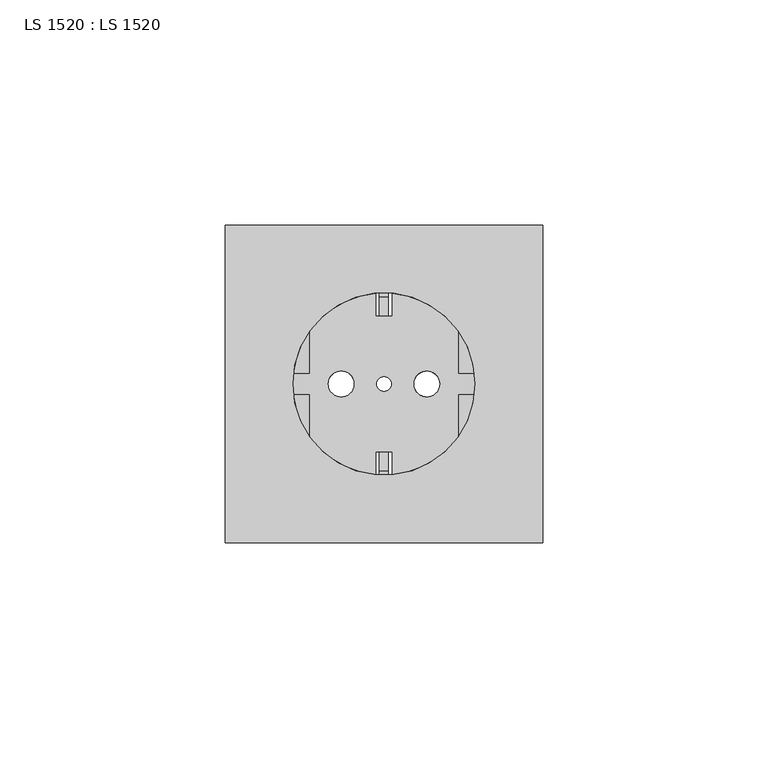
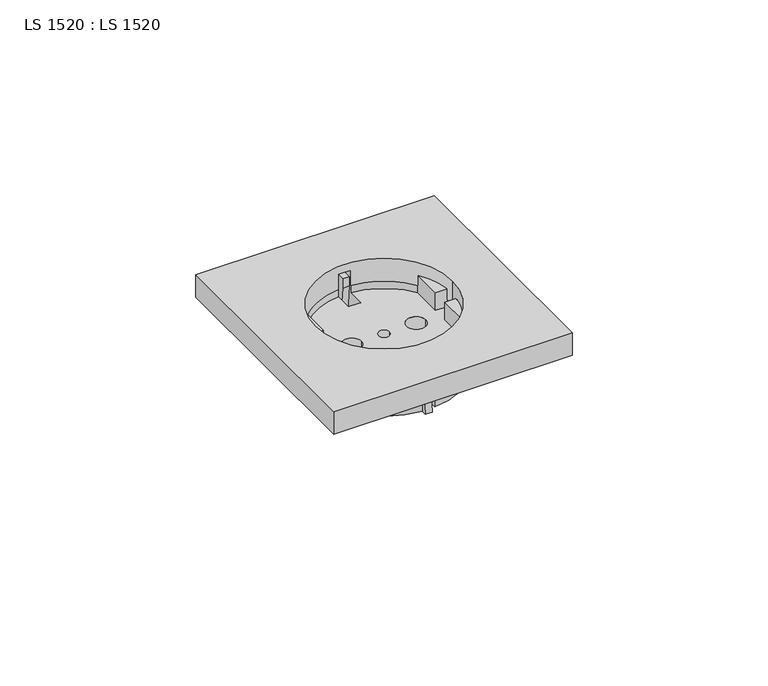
"""IFC4 building model written with IfcOpenShell, lengths in millimetres: proxy geometry, LS 1520 : LS 1520."""

import ifcopenshell
import ifcopenshell.guid

model = None  # the IFC model being written
_history = None  # IfcOwnerHistory: only IFC2X3 demands one
_inside = {}  # id of a spatial element -> (the spatial element, [elements in it])
_under = {}  # id of a project, library or spatial element -> (it, [spatial elements below it])
_declared = {}  # id of a project -> (the project, [libraries it declares])
_typed = {}  # id of a type object -> (the type object, [elements of that type])
_made_of = {}  # id of a material, layer set ... -> (it, [elements and type objects made of it])


def new_model(schema):
    """Start an empty IFC model of exactly this schema.

    Asked for "IFC4X3", IfcOpenShell would pick the latest addendum, in which some entities
    have other attributes; the version numbers below select the first issue.
    IFC2X3 requires an IfcOwnerHistory on every rooted entity: one is made here for all.
    """
    global model, _history
    if schema == "IFC4X3":
        model = ifcopenshell.file(schema_version=(4, 3, 0, 0))
    else:
        model = ifcopenshell.file(schema=schema)
    _inside.clear()
    _under.clear()
    _declared.clear()
    _typed.clear()
    _made_of.clear()
    _history = None
    if model.schema == "IFC2X3":
        org = make("IfcOrganization", Name="unknown")
        user = make(
            "IfcPersonAndOrganization",
            ThePerson=make("IfcPerson", FamilyName="unknown"),
            TheOrganization=org,
        )
        app = make(
            "IfcApplication",
            ApplicationDeveloper=org,
            Version="unknown",
            ApplicationFullName="unknown",
            ApplicationIdentifier="unknown",
        )
        _history = make(
            "IfcOwnerHistory",
            OwningUser=user,
            OwningApplication=app,
            ChangeAction="ADDED",
            CreationDate=0,
        )
    return model


def make(cls, **values):
    """One entity of the class cls with the attributes given. An attribute that is None is left unset."""
    return model.create_entity(
        cls, **{name: value for name, value in values.items() if value is not None}
    )


def rooted(cls, **values):
    """An entity with a GlobalId (a new one), such as an element, a storey or a relation."""
    return make(cls, GlobalId=ifcopenshell.guid.new(), OwnerHistory=_history, **values)


def si_unit(unit_type, name, prefix=None):
    """IfcSIUnit, for example si_unit("LENGTHUNIT", "METRE", prefix="MILLI")."""
    return make("IfcSIUnit", UnitType=unit_type, Prefix=prefix, Name=name)


def assignment(units):
    """IfcUnitAssignment: the units of a project."""
    return None if units is None else make("IfcUnitAssignment", Units=units)


def point(xyz):
    """IfcCartesianPoint."""
    return None if xyz is None else make("IfcCartesianPoint", Coordinates=xyz)


def direction(xyz):
    """IfcDirection."""
    return None if xyz is None else make("IfcDirection", DirectionRatios=xyz)


def frame(location, z_axis=None, x_axis=None):
    """IfcAxis2Placement3D, a coordinate frame: its origin and axes. An axis left out is left unset."""
    return make(
        "IfcAxis2Placement3D",
        Location=point(location),
        Axis=direction(z_axis),
        RefDirection=direction(x_axis),
    )


def frame_2d(location, x_axis=None):
    """IfcAxis2Placement2D, a coordinate frame in the plane: its origin and x axis."""
    return make(
        "IfcAxis2Placement2D", Location=point(location), RefDirection=direction(x_axis)
    )


def origin():
    """The frame at (0, 0, 0) with its axes left unset."""
    return frame((0.0, 0.0, 0.0))


def place(relative_to, where):
    """IfcLocalPlacement: puts the frame where relative to a parent placement (None: the world)."""
    return make(
        "IfcLocalPlacement", PlacementRelTo=relative_to, RelativePlacement=where
    )


def context(
    kind, dimensions, precision=None, world=None, true_north=None, identifier=None
):
    """IfcGeometricRepresentationContext, for example the 3D "Model" context."""
    return make(
        "IfcGeometricRepresentationContext",
        ContextIdentifier=identifier,
        ContextType=kind,
        CoordinateSpaceDimension=dimensions,
        Precision=precision,
        WorldCoordinateSystem=world,
        TrueNorth=true_north,
    )


def project(units=None, contexts=None):
    """IfcProject with its units and contexts."""
    return rooted(
        "IfcProject",
        Name="project",
        RepresentationContexts=contexts,
        UnitsInContext=assignment(units),
    )


def spatial(cls, under=None, at=None, **own):
    """A site, building, storey or space (cls), placed at a placement, below another one or the project."""
    s = rooted(cls, ObjectPlacement=at, **own)
    if under is not None:
        _under.setdefault(under.id(), (under, []))[1].append(s)
    return s


def polyline(points):
    """IfcPolyline through the points."""
    return make("IfcPolyline", Points=[point(p) for p in points])


def circle_curve(where, radius):
    """IfcCircle in the frame where."""
    return make("IfcCircle", Position=where, Radius=radius)


def trimmed(basis, trim1, trim2, sense, master):
    """IfcTrimmedCurve: the piece of a basis curve between two trims."""
    return make(
        "IfcTrimmedCurve",
        BasisCurve=basis,
        Trim1=trim1,
        Trim2=trim2,
        SenseAgreement=sense,
        MasterRepresentation=master,
    )


def segment(curve, same_sense, transition):
    """IfcCompositeCurveSegment."""
    return make(
        "IfcCompositeCurveSegment",
        Transition=transition,
        SameSense=same_sense,
        ParentCurve=curve,
    )


def composite_curve(segments, self_intersect=None):
    """IfcCompositeCurve: segments joined end to end."""
    return make("IfcCompositeCurve", Segments=segments, SelfIntersect=self_intersect)


def outline(outer, holes=None, kind="AREA"):
    """IfcArbitraryClosedProfileDef: a profile drawn as a closed curve; with holes, ...WithVoids."""
    if holes is None:
        return make("IfcArbitraryClosedProfileDef", ProfileType=kind, OuterCurve=outer)
    return make(
        "IfcArbitraryProfileDefWithVoids",
        ProfileType=kind,
        OuterCurve=outer,
        InnerCurves=holes,
    )


def extrude(swept, where, along, depth):
    """IfcExtrudedAreaSolid: the profile swept, set in the frame where, extruded along a direction by depth."""
    return make(
        "IfcExtrudedAreaSolid",
        SweptArea=swept,
        Position=where,
        ExtrudedDirection=direction(along),
        Depth=depth,
    )


def shape(context_of_items, identifier, shape_type, items):
    """IfcShapeRepresentation: the items that make up one representation, for example the "Body"."""
    return make(
        "IfcShapeRepresentation",
        ContextOfItems=context_of_items,
        RepresentationIdentifier=identifier,
        RepresentationType=shape_type,
        Items=items,
    )


def source(mapping_origin, context_of_items, identifier, shape_type, items):
    """IfcRepresentationMap: a shape defined once, which mapped items show again and again."""
    return make(
        "IfcRepresentationMap",
        MappingOrigin=mapping_origin,
        MappedRepresentation=shape(context_of_items, identifier, shape_type, items),
    )


def transform(
    local_origin,
    x_axis=None,
    y_axis=None,
    z_axis=None,
    scale=None,
    scale2=None,
    scale3=None,
    uniform=True,
):
    """IfcCartesianTransformationOperator3D, or its non-uniform kind. x_axis, y_axis, z_axis: its Axis1, 2, 3."""
    if uniform:
        return make(
            "IfcCartesianTransformationOperator3D",
            Axis1=direction(x_axis),
            Axis2=direction(y_axis),
            LocalOrigin=point(local_origin),
            Scale=scale,
            Axis3=direction(z_axis),
        )
    return make(
        "IfcCartesianTransformationOperator3DnonUniform",
        Axis1=direction(x_axis),
        Axis2=direction(y_axis),
        LocalOrigin=point(local_origin),
        Scale=scale,
        Axis3=direction(z_axis),
        Scale2=scale2,
        Scale3=scale3,
    )


def mapped(mapping_source, mapping_target):
    """IfcMappedItem: shows the shape of a source again, moved by a transform."""
    return make(
        "IfcMappedItem", MappingSource=mapping_source, MappingTarget=mapping_target
    )


def made_of(thing, what):
    """Note that an element or type object is made of a material, layer set ...; save() writes the relation."""
    if what is not None:
        _made_of.setdefault(what.id(), (what, []))[1].append(thing)
    return thing


def element(
    cls,
    number,
    at=None,
    inside=None,
    cuts=None,
    type_object=None,
    material=None,
    context=None,
    identifier="Body",
    shape_type=None,
    held_by="IfcProductDefinitionShape",
    body=None,
    shapes=None,
    **own,
):
    """One element of the class cls, such as IfcWall. Its Tag is "e" and its number.

    at: its placement. inside: the storey or other place that contains it. cuts: it is an
    opening in that element (IfcRelVoidsElement). A single representation is given by context,
    identifier, shape_type and body (its items); several are given by shapes. held_by: the class
    of the entity that holds the representations. save() writes the other relations.
    """
    e = rooted(cls, Tag="e%d" % number, ObjectPlacement=at, **own)
    if body is not None:
        shapes = [shape(context, identifier, shape_type, body)]
    if shapes is not None:
        e.Representation = make(held_by, Representations=shapes)
    if inside is not None:
        _inside.setdefault(inside.id(), (inside, []))[1].append(e)
    if cuts is not None:
        rooted(
            "IfcRelVoidsElement", RelatingBuildingElement=cuts, RelatedOpeningElement=e
        )
    if type_object is not None:
        _typed.setdefault(type_object.id(), (type_object, []))[1].append(e)
    return made_of(e, material)


def aggregate(whole, parts):
    """IfcRelAggregates: a whole, such as a stair, and the parts it consists of."""
    return rooted("IfcRelAggregates", RelatingObject=whole, RelatedObjects=parts)


def save(model, path):
    """Write the relations noted so far, then the file.

    IfcRelAggregates (storeys below a building ...), IfcRelContainedInSpatialStructure (elements
    in a storey), IfcRelDefinesByType, IfcRelAssociatesMaterial and IfcRelDeclares: one each for
    every whole, place, type object, material and project.
    """
    for whole, parts in _under.values():
        aggregate(whole, parts)
    for where, things in _inside.values():
        rooted(
            "IfcRelContainedInSpatialStructure",
            RelatedElements=things,
            RelatingStructure=where,
        )
    for kind, things in _typed.values():
        rooted("IfcRelDefinesByType", RelatedObjects=things, RelatingType=kind)
    for what, things in _made_of.values():
        rooted("IfcRelAssociatesMaterial", RelatedObjects=things, RelatingMaterial=what)
    for by, libraries in _declared.values():
        rooted("IfcRelDeclares", RelatingContext=by, RelatedDefinitions=libraries)
    model.write(path)


def plane_surface(at):
    """IfcPlane: the flat surface through the origin of the frame at, square to its z axis."""
    return make("IfcPlane", Position=at)


def cylinder_surface(at, radius):
    """IfcCylindricalSurface: all points at the distance radius from the z axis of the frame at."""
    return make("IfcCylindricalSurface", Position=at, Radius=radius)


def revolved_surface(curve, axis_point, axis_direction):
    """IfcSurfaceOfRevolution: the curve turned about the line through axis_point along axis_direction."""
    return make(
        "IfcSurfaceOfRevolution",
        SweptCurve=make("IfcArbitraryOpenProfileDef", ProfileType="CURVE", Curve=curve),
        AxisPosition=make("IfcAxis1Placement", Location=point(axis_point), Axis=direction(axis_direction)),
    )


def advanced_brep(points, edges, surfaces, faces):
    """IfcAdvancedBrep: a solid bounded by faces that lie on surfaces and meet in shared edges.

    An edge is (start, end): straight between two places in points (the first is 0);
    or (start, end, curve); or (start, end, curve, False) where it runs against its curve.
    A face is (place in surfaces, loops), or (place, loops, False) where it looks against
    its surface's normal. A loop lists edges by number (the first is 1), with a minus sign
    where the edge is run from its end to its start. The first loop is the outer one.
    """
    corners = [point(p) for p in points]
    vertices = [make("IfcVertexPoint", VertexGeometry=c) for c in corners]
    made = []
    for start, end, *more in edges:
        made.append(
            make(
                "IfcEdgeCurve",
                EdgeStart=vertices[start],
                EdgeEnd=vertices[end],
                EdgeGeometry=more[0] if more else make("IfcPolyline", Points=[corners[start], corners[end]]),
                SameSense=more[1] if len(more) > 1 else True,
            )
        )
    hull = []
    for where, loops, *sense in faces:
        bounds = []
        for j, loop in enumerate(loops):
            ring = [make("IfcOrientedEdge", EdgeElement=made[abs(k) - 1], Orientation=k > 0) for k in loop]
            bounds.append(
                make(
                    "IfcFaceOuterBound" if j == 0 else "IfcFaceBound",
                    Bound=make("IfcEdgeLoop", EdgeList=ring),
                    Orientation=True,
                )
            )
        hull.append(make("IfcAdvancedFace", Bounds=bounds, FaceSurface=surfaces[where], SameSense=sense[0] if sense else True))
    return make("IfcAdvancedBrep", Outer=make("IfcClosedShell", CfsFaces=hull))


def ls_1520_ls_1520_03f69623(model_context):
    return source(origin(), model_context, "Body", "SolidModel", [
        extrude(outline(polyline([(54.6595158, 3.4430641), (58.2705761, 3.4430641), (58.2705761, 1.4430641), (56.573496, 1.4430641), (58.1177993, -13.25), (50.2465526, -13.25), (50.2465526, -11.25), (55.8965742, -11.25), (54.6595158, 0.5198248), (54.6595158, 3.4430641)])), frame((34.25, 0.0, 0.0), z_axis=(1.0, 0.0, 0.0), x_axis=(0.0, 1.0, 0.0)), (0.0, 0.0, 1.0), 2.0),
        extrude(outline(polyline([(15.8404842, 3.4430641), (15.8404842, 0.5198248), (14.6034258, -11.25), (20.2534474, -11.25), (20.2534474, -13.25), (12.3822007, -13.25), (13.926504, 1.4430641), (12.2294239, 1.4430641), (12.2294239, 3.4430641), (15.8404842, 3.4430641)])), frame((34.25, 0.0, 0.0), z_axis=(1.0, 0.0, 0.0), x_axis=(0.0, 1.0, 0.0)), (0.0, 0.0, 1.0), 2.0),
        extrude(outline(composite_curve([segment(trimmed(circle_curve(frame_2d((35.25, 35.25)), 4.6), [point((30.65, 35.25))], [point((39.85, 35.25))], False, "CARTESIAN"), True, "CONTINUOUS"), segment(trimmed(circle_curve(frame_2d((35.25, 35.25)), 4.6), [point((39.85, 35.25))], [point((30.65, 35.25))], False, "CARTESIAN"), True, "CONTINUOUS")], self_intersect=False), holes=[composite_curve([segment(trimmed(circle_curve(frame_2d((35.25, 35.25)), 1.6006874), [point((33.6493126, 35.25))], [point((36.8506874, 35.25))], True, "CARTESIAN"), True, "CONTINUOUS"), segment(trimmed(circle_curve(frame_2d((35.25, 35.25)), 1.6006874), [point((36.8506874, 35.25))], [point((33.6493126, 35.25))], True, "CARTESIAN"), True, "CONTINUOUS")], self_intersect=False)]), frame((0.0, 0.0, -17.4), z_axis=(0.0, 0.0, 1.0), x_axis=(1.0, 0.0, 0.0)), (0.0, 0.0, 1.0), 3.3266647),
        extrude(outline(composite_curve([segment(trimmed(circle_curve(frame_2d((25.744382, 35.25)), 4.5004822), [point((21.2438998, 35.25))], [point((30.2448642, 35.25))], False, "CARTESIAN"), True, "CONTINUOUS"), segment(trimmed(circle_curve(frame_2d((25.744382, 35.25)), 4.5004822), [point((30.2448642, 35.25))], [point((21.2438998, 35.25))], False, "CARTESIAN"), True, "CONTINUOUS")], self_intersect=False), holes=[composite_curve([segment(trimmed(circle_curve(frame_2d((25.744382, 35.25)), 2.8383379), [point((22.9060441, 35.25))], [point((28.5827199, 35.25))], True, "CARTESIAN"), True, "CONTINUOUS"), segment(trimmed(circle_curve(frame_2d((25.744382, 35.25)), 2.8383379), [point((28.5827199, 35.25))], [point((22.9060441, 35.25))], True, "CARTESIAN"), True, "CONTINUOUS")], self_intersect=False)]), frame((0.0, 0.0, -15.5), z_axis=(0.0, 0.0, 1.0), x_axis=(1.0, 0.0, 0.0)), (0.0, 0.0, 1.0), 1.4266647),
        extrude(outline(composite_curve([segment(trimmed(circle_curve(frame_2d((44.7916241, 35.25)), 4.5004822), [point((40.2911419, 35.25))], [point((49.2921063, 35.25))], False, "CARTESIAN"), True, "CONTINUOUS"), segment(trimmed(circle_curve(frame_2d((44.7916241, 35.25)), 4.5004822), [point((49.2921063, 35.25))], [point((40.2911419, 35.25))], False, "CARTESIAN"), True, "CONTINUOUS")], self_intersect=False), holes=[composite_curve([segment(trimmed(circle_curve(frame_2d((44.7916241, 35.25)), 2.8383379), [point((41.9532862, 35.25))], [point((47.629962, 35.25))], True, "CARTESIAN"), True, "CONTINUOUS"), segment(trimmed(circle_curve(frame_2d((44.7916241, 35.25)), 2.8383379), [point((47.629962, 35.25))], [point((41.9532862, 35.25))], True, "CARTESIAN"), True, "CONTINUOUS")], self_intersect=False)]), frame((0.0, 0.0, -15.5), z_axis=(0.0, 0.0, 1.0), x_axis=(1.0, 0.0, 0.0)), (0.0, 0.0, 1.0), 1.4266647),
        extrude(outline(composite_curve([segment(trimmed(circle_curve(frame_2d((25.744382, 35.2139939)), 7.2861066), [point((31.2366148, 30.4262252))], [point((31.2001867, 40.0432324))], False, "CARTESIAN"), True, "CONTINUOUS"), segment(trimmed(circle_curve(frame_2d((35.25, 35.25)), 6.275035), [point((31.2001867, 40.0432324))], [point((39.2998133, 40.0432324))], False, "CARTESIAN"), True, "CONTINUOUS"), segment(trimmed(circle_curve(frame_2d((44.755618, 35.2139939)), 7.2861066), [point((39.2998133, 40.0432324))], [point((39.2633852, 30.4262252))], False, "CARTESIAN"), True, "CONTINUOUS"), segment(trimmed(circle_curve(frame_2d((35.25, 35.25)), 6.275035), [point((39.2633852, 30.4262252))], [point((31.2366148, 30.4262252))], False, "CARTESIAN"), True, "CONTINUOUS")], self_intersect=False), holes=[composite_curve([segment(trimmed(circle_curve(frame_2d((25.744382, 35.2139939)), 2.8636839), [point((22.8806982, 35.2139939))], [point((28.6080659, 35.2139939))], True, "CARTESIAN"), True, "CONTINUOUS"), segment(trimmed(circle_curve(frame_2d((25.744382, 35.2139939)), 2.8636839), [point((28.6080659, 35.2139939))], [point((22.8806982, 35.2139939))], True, "CARTESIAN"), True, "CONTINUOUS")], self_intersect=False), composite_curve([segment(trimmed(circle_curve(frame_2d((35.25, 35.25)), 1.6006874), [point((33.6493126, 35.25))], [point((36.8506874, 35.25))], True, "CARTESIAN"), True, "CONTINUOUS"), segment(trimmed(circle_curve(frame_2d((35.25, 35.25)), 1.6006874), [point((36.8506874, 35.25))], [point((33.6493126, 35.25))], True, "CARTESIAN"), True, "CONTINUOUS")], self_intersect=False), composite_curve([segment(trimmed(circle_curve(frame_2d((44.755618, 35.2139939)), 2.8561697), [point((41.8994483, 35.2139939))], [point((47.6117876, 35.2139939))], True, "CARTESIAN"), True, "CONTINUOUS"), segment(trimmed(circle_curve(frame_2d((44.755618, 35.2139939)), 2.8561697), [point((47.6117876, 35.2139939))], [point((41.8994483, 35.2139939))], True, "CARTESIAN"), True, "CONTINUOUS")], self_intersect=False)]), frame((0.0, 0.0, -14.0733353), z_axis=(0.0, 0.0, 1.0), x_axis=(1.0, 0.0, 0.0)), (0.0, 0.0, 1.0), 2.0733353),
        advanced_brep(
        [(70.5, 70.5, 7.1), (0.0, 70.5, 7.1), (0.0, 0.0, 7.1), (70.5, 0.0, 7.1), (15.0494433, 35.25, 7.1), (55.4505567, 35.25, 7.1), (70.5, 70.5, 0.0), (70.5, 0.0, 0.0), (0.0, 0.0, 0.0), (0.0, 70.5, 0.0), (2.0, 2.0, 0.0), (68.5, 2.0, 0.0), (68.5, 68.5, 0.0), (2.0, 68.5, 0.0), (60.05, 35.25, 0.0), (10.45, 35.25, 0.0), (58.0280596, 34.25, 0.0), (59.2385832, 34.25, 0.0), (59.2385832, 36.25, 0.0), (58.0280596, 36.25, 0.0), (37.1043156, 57.9744695, 0.0), (37.1043156, 59.2483203, 0.0), (33.3956844, 59.2483203, 0.0), (33.3956844, 57.9744695, 0.0), (12.4719404, 36.25, 0.0), (11.2614168, 36.25, 0.0), (11.2614168, 34.25, 0.0), (12.4719404, 34.25, 0.0), (33.3956844, 12.5255305, 0.0), (33.3956844, 11.2516797, 0.0), (37.1043156, 11.2516797, 0.0), (37.1043156, 12.5255305, 0.0), (15.0494433, 35.25, 0.0), (15.19335, 37.656923, 0.0), (15.19335, 37.656923, 3.2), (18.669277, 46.7887223, 3.2), (18.669277, 46.7887223, 0.0), (33.3956844, 55.3652679, 0.0), (33.3956844, 55.3652679, 4.7), (37.1043156, 55.3652679, 4.7), (37.1043156, 55.3652679, 0.0), (51.830723, 46.7887223, 0.0), (51.830723, 46.7887223, 3.2), (55.30665, 37.656923, 3.2), (55.30665, 37.656923, 0.0), (55.4505567, 35.25, 0.0), (55.30665, 32.843077, 0.0), (55.30665, 32.843077, 3.2), (51.830723, 23.7112777, 3.2), (51.830723, 23.7112777, 0.0), (37.1043156, 15.1347321, 0.0), (37.1043156, 15.1347321, 4.7), (33.3956844, 15.1347321, 4.7), (33.3956844, 15.1347321, 0.0), (18.669277, 23.7112777, 0.0), (18.669277, 23.7112777, 3.2), (15.19335, 32.843077, 3.2), (15.19335, 32.843077, 0.0), (33.3956844, 59.2483203, 4.7), (37.1043156, 59.2483203, 4.7), (37.1043156, 11.2516797, 4.7), (33.3956844, 11.2516797, 4.7), (37.1043156, 57.9744695, -4.5), (37.1043156, 57.9744695, -12.0), (37.1043156, 50.2465526, -12.0), (37.1043156, 50.2465526, -2.2801662), (37.1043156, 55.3652679, -2.2801662), (33.3956844, 55.3652679, -2.2801662), (33.3956844, 50.2465526, -2.2801662), (33.3956844, 50.2465526, -12.0), (33.3956844, 57.9744695, -12.0), (33.3956844, 57.9744695, -4.5), (37.1043156, 20.2534474, -12.0), (37.1043156, 20.2534474, -2.2801662), (33.3956844, 20.2534474, -2.2801662), (33.3956844, 20.2534474, -12.0), (33.3956844, 12.5255305, -4.5), (33.3956844, 12.5255305, -12.0), (33.3956844, 15.1347321, -2.2801662), (37.1043156, 15.1347321, -2.2801662), (37.1043156, 12.5255305, -12.0), (37.1043156, 12.5255305, -4.5), (2.0, 2.0, 1.0), (2.0, 68.5, 1.0), (68.5, 68.5, 1.0), (68.5, 2.0, 1.0), (60.05, 35.25, 1.0), (10.45, 35.25, 1.0), (18.669277, 37.656923, 3.2), (18.669277, 32.843077, 3.2), (51.830723, 37.656923, 3.2), (51.830723, 32.843077, 3.2), (18.669277, 37.656923, -2.2801662), (18.669277, 46.7887223, -2.2801662), (15.19335, 37.656923, -2.2801662), (18.669277, 32.843077, -2.2801662), (15.19335, 32.843077, -2.2801662), (18.669277, 23.7112777, -2.2801662), (51.830723, 37.656923, -2.2801662), (55.30665, 37.656923, -2.2801662), (51.830723, 46.7887223, -2.2801662), (51.830723, 32.843077, -2.2801662), (51.830723, 23.7112777, -2.2801662), (55.30665, 32.843077, -2.2801662), (58.0280596, 34.25, -4.5), (12.4719404, 34.25, -4.5), (15.0494433, 35.25, -2.2801662), (55.4505567, 35.25, -2.2801662), (58.0280596, 34.25, -12.0), (59.2385832, 34.25, -12.0), (59.2385832, 36.25, -12.0), (58.0280596, 36.25, -12.0), (58.0280596, 36.25, -4.5), (12.4719404, 36.25, -4.5), (12.4719404, 36.25, -12.0), (11.2614168, 36.25, -12.0), (11.2614168, 34.25, -12.0), (12.4719404, 34.25, -12.0), (22.9060441, 35.25, -2.2801662), (28.5827199, 35.25, -2.2801662), (47.5939559, 35.25, -2.2801662), (41.9172801, 35.25, -2.2801662), (33.6493126, 35.25, -2.2801662), (36.8506874, 35.25, -2.2801662), (22.9060441, 35.25, -12.0), (28.5827199, 35.25, -12.0), (47.5939559, 35.25, -12.0), (41.9172801, 35.25, -12.0), (33.6493126, 35.25, -12.0), (36.8506874, 35.25, -12.0)],
        [
            (0, 1),
            (1, 2),
            (2, 3),
            (3, 0),
            (4, 5, circle_curve(frame((35.25, 35.25, 7.1), z_axis=(0.0, 0.0, -1.0), x_axis=(1.0, 0.0, 0.0)), 20.2005567)),
            (5, 4, circle_curve(frame((35.25, 35.25, 7.1), z_axis=(0.0, 0.0, -1.0), x_axis=(1.0, 0.0, 0.0)), 20.2005567)),
            (6, 7),
            (7, 8),
            (8, 9),
            (9, 6),
            (10, 11),
            (11, 12),
            (12, 13),
            (13, 10),
            (14, 15, circle_curve(frame((35.25, 35.25, 0.0), z_axis=(0.0, 0.0, -1.0), x_axis=(-1.0, 0.0, 0.0)), 24.8)),
            (15, 14, circle_curve(frame((35.25, 35.25, 0.0), z_axis=(0.0, 0.0, -1.0), x_axis=(-1.0, 0.0, 0.0)), 24.8)),
            (16, 17),
            (17, 18),
            (18, 19),
            (19, 20, circle_curve(frame((35.25, 35.25, 0.0), z_axis=(0.0, 0.0, 1.0), x_axis=(1.0, 0.0, 0.0)), 22.8)),
            (20, 21),
            (21, 22),
            (22, 23),
            (23, 24, circle_curve(frame((35.25, 35.25, 0.0), z_axis=(0.0, 0.0, 1.0), x_axis=(1.0, 0.0, 0.0)), 22.8)),
            (24, 25),
            (25, 26),
            (26, 27),
            (27, 28, circle_curve(frame((35.25, 35.25, 0.0), z_axis=(0.0, 0.0, 1.0), x_axis=(1.0, 0.0, 0.0)), 22.8)),
            (28, 29),
            (29, 30),
            (30, 31),
            (31, 16, circle_curve(frame((35.25, 35.25, 0.0), z_axis=(0.0, 0.0, 1.0), x_axis=(1.0, 0.0, 0.0)), 22.8)),
            (0, 6),
            (9, 1),
            (8, 2),
            (7, 3),
            (4, 32),
            (32, 33, circle_curve(frame((35.25, 35.25, 0.0), z_axis=(0.0, 0.0, -1.0), x_axis=(1.0, 0.0, 0.0)), 20.2005567)),
            (33, 34),
            (34, 35, circle_curve(frame((35.25, 35.25, 3.2), z_axis=(0.0, 0.0, -1.0), x_axis=(1.0, 0.0, 0.0)), 20.2005567)),
            (35, 36),
            (36, 37, circle_curve(frame((35.25, 35.25, 0.0), z_axis=(0.0, 0.0, -1.0), x_axis=(1.0, 0.0, 0.0)), 20.2005567)),
            (37, 38),
            (38, 39, circle_curve(frame((35.25, 35.25, 4.7), z_axis=(0.0, 0.0, -1.0), x_axis=(1.0, 0.0, 0.0)), 20.2005567)),
            (39, 40),
            (40, 41, circle_curve(frame((35.25, 35.25, 0.0), z_axis=(0.0, 0.0, -1.0), x_axis=(1.0, 0.0, 0.0)), 20.2005567)),
            (41, 42),
            (42, 43, circle_curve(frame((35.25, 35.25, 3.2), z_axis=(0.0, 0.0, -1.0), x_axis=(1.0, 0.0, 0.0)), 20.2005567)),
            (43, 44),
            (44, 45, circle_curve(frame((35.25, 35.25, 0.0), z_axis=(0.0, 0.0, -1.0), x_axis=(1.0, 0.0, 0.0)), 20.2005567)),
            (45, 5),
            (45, 46, circle_curve(frame((35.25, 35.25, 0.0), z_axis=(0.0, 0.0, -1.0), x_axis=(1.0, 0.0, 0.0)), 20.2005567)),
            (46, 47),
            (47, 48, circle_curve(frame((35.25, 35.25, 3.2), z_axis=(0.0, 0.0, -1.0), x_axis=(1.0, 0.0, 0.0)), 20.2005567)),
            (48, 49),
            (49, 50, circle_curve(frame((35.25, 35.25, 0.0), z_axis=(0.0, 0.0, -1.0), x_axis=(1.0, 0.0, 0.0)), 20.2005567)),
            (50, 51),
            (51, 52, circle_curve(frame((35.25, 35.25, 4.7), z_axis=(0.0, 0.0, -1.0), x_axis=(1.0, 0.0, 0.0)), 20.2005567)),
            (52, 53),
            (53, 54, circle_curve(frame((35.25, 35.25, 0.0), z_axis=(0.0, 0.0, -1.0), x_axis=(1.0, 0.0, 0.0)), 20.2005567)),
            (54, 55),
            (55, 56, circle_curve(frame((35.25, 35.25, 3.2), z_axis=(0.0, 0.0, -1.0), x_axis=(1.0, 0.0, 0.0)), 20.2005567)),
            (56, 57),
            (57, 32, circle_curve(frame((35.25, 35.25, 0.0), z_axis=(0.0, 0.0, -1.0), x_axis=(1.0, 0.0, 0.0)), 20.2005567)),
            (58, 59),
            (59, 39),
            (38, 58),
            (60, 61),
            (61, 52),
            (51, 60),
            (59, 21),
            (20, 62),
            (62, 63),
            (63, 64),
            (64, 65),
            (65, 66),
            (66, 40),
            (58, 22),
            (37, 67),
            (67, 68),
            (68, 69),
            (69, 70),
            (70, 71),
            (71, 23),
            (64, 69),
            (68, 65),
            (72, 73),
            (73, 74),
            (74, 75),
            (75, 72),
            (61, 29),
            (28, 76),
            (76, 77),
            (77, 75),
            (74, 78),
            (78, 53),
            (60, 30),
            (50, 79),
            (79, 73),
            (72, 80),
            (80, 81),
            (81, 31),
            (82, 83),
            (83, 84),
            (84, 85),
            (85, 82),
            (86, 87, circle_curve(frame((35.25, 35.25, 1.0), z_axis=(0.0, 0.0, 1.0), x_axis=(-1.0, 0.0, 0.0)), 24.8)),
            (87, 86, circle_curve(frame((35.25, 35.25, 1.0), z_axis=(0.0, 0.0, 1.0), x_axis=(-1.0, 0.0, 0.0)), 24.8)),
            (85, 11),
            (10, 82),
            (84, 12),
            (83, 13),
            (87, 15),
            (14, 86),
            (88, 35),
            (34, 88),
            (89, 56),
            (55, 89),
            (90, 43),
            (42, 90),
            (91, 48),
            (47, 91),
            (88, 92),
            (92, 93),
            (93, 36),
            (33, 94),
            (94, 92),
            (89, 95),
            (95, 96),
            (96, 57),
            (54, 97),
            (97, 95),
            (90, 98),
            (98, 99),
            (99, 44),
            (41, 100),
            (100, 98),
            (91, 101),
            (101, 102),
            (102, 49),
            (46, 103),
            (103, 101),
            (104, 16),
            (81, 104, circle_curve(frame((35.25, 35.25, -4.5), z_axis=(0.0, 0.0, 1.0), x_axis=(1.0, 0.0, 0.0)), 22.8)),
            (27, 105),
            (105, 76, circle_curve(frame((35.25, 35.25, -4.5), z_axis=(0.0, 0.0, 1.0), x_axis=(1.0, 0.0, 0.0)), 22.8)),
            (66, 100, circle_curve(frame((35.25, 35.25, -2.2801662), z_axis=(0.0, 0.0, -1.0), x_axis=(1.0, 0.0, 0.0)), 20.2005567)),
            (93, 67, circle_curve(frame((35.25, 35.25, -2.2801662), z_axis=(0.0, 0.0, -1.0), x_axis=(1.0, 0.0, 0.0)), 20.2005567)),
            (32, 106),
            (106, 94, circle_curve(frame((35.25, 35.25, -2.2801662), z_axis=(0.0, 0.0, -1.0), x_axis=(1.0, 0.0, 0.0)), 20.2005567)),
            (107, 45),
            (99, 107, circle_curve(frame((35.25, 35.25, -2.2801662), z_axis=(0.0, 0.0, -1.0), x_axis=(1.0, 0.0, 0.0)), 20.2005567)),
            (78, 97, circle_curve(frame((35.25, 35.25, -2.2801662), z_axis=(0.0, 0.0, -1.0), x_axis=(1.0, 0.0, 0.0)), 20.2005567)),
            (102, 79, circle_curve(frame((35.25, 35.25, -2.2801662), z_axis=(0.0, 0.0, -1.0), x_axis=(1.0, 0.0, 0.0)), 20.2005567)),
            (96, 106, circle_curve(frame((35.25, 35.25, -2.2801662), z_axis=(0.0, 0.0, -1.0), x_axis=(1.0, 0.0, 0.0)), 20.2005567)),
            (107, 103, circle_curve(frame((35.25, 35.25, -2.2801662), z_axis=(0.0, 0.0, -1.0), x_axis=(1.0, 0.0, 0.0)), 20.2005567)),
            (104, 108),
            (108, 109),
            (109, 17),
            (109, 110),
            (110, 18),
            (110, 111),
            (111, 112),
            (112, 19),
            (112, 62, circle_curve(frame((35.25, 35.25, -4.5), z_axis=(0.0, 0.0, 1.0), x_axis=(1.0, 0.0, 0.0)), 22.8)),
            (113, 24),
            (71, 113, circle_curve(frame((35.25, 35.25, -4.5), z_axis=(0.0, 0.0, 1.0), x_axis=(1.0, 0.0, 0.0)), 22.8)),
            (113, 114),
            (114, 115),
            (115, 25),
            (115, 116),
            (116, 26),
            (116, 117),
            (117, 105),
            (118, 119, circle_curve(frame((25.744382, 35.25, -2.2801662), z_axis=(0.0, 0.0, -1.0), x_axis=(1.0, 0.0, 0.0)), 2.8383379)),
            (119, 118, circle_curve(frame((25.744382, 35.25, -2.2801662), z_axis=(0.0, 0.0, -1.0), x_axis=(1.0, 0.0, 0.0)), 2.8383379)),
            (120, 121, circle_curve(frame((44.755618, 35.25, -2.2801662), z_axis=(0.0, 0.0, -1.0), x_axis=(-1.0, 0.0, 0.0)), 2.8383379)),
            (121, 120, circle_curve(frame((44.755618, 35.25, -2.2801662), z_axis=(0.0, 0.0, -1.0), x_axis=(-1.0, 0.0, 0.0)), 2.8383379)),
            (122, 123, circle_curve(frame((35.25, 35.25, -2.2801662), z_axis=(0.0, 0.0, -1.0), x_axis=(1.0, 0.0, 0.0)), 1.6006874)),
            (123, 122, circle_curve(frame((35.25, 35.25, -2.2801662), z_axis=(0.0, 0.0, -1.0), x_axis=(1.0, 0.0, 0.0)), 1.6006874)),
            (108, 80, circle_curve(frame((35.25, 35.25, -12.0), z_axis=(0.0, 0.0, -1.0), x_axis=(1.0, 0.0, 0.0)), 22.8)),
            (77, 117, circle_curve(frame((35.25, 35.25, -12.0), z_axis=(0.0, 0.0, -1.0), x_axis=(1.0, 0.0, 0.0)), 22.8)),
            (114, 70, circle_curve(frame((35.25, 35.25, -12.0), z_axis=(0.0, 0.0, -1.0), x_axis=(1.0, 0.0, 0.0)), 22.8)),
            (63, 111, circle_curve(frame((35.25, 35.25, -12.0), z_axis=(0.0, 0.0, -1.0), x_axis=(1.0, 0.0, 0.0)), 22.8)),
            (124, 125, circle_curve(frame((25.744382, 35.25, -12.0), z_axis=(0.0, 0.0, 1.0), x_axis=(1.0, 0.0, 0.0)), 2.8383379)),
            (125, 124, circle_curve(frame((25.744382, 35.25, -12.0), z_axis=(0.0, 0.0, 1.0), x_axis=(1.0, 0.0, 0.0)), 2.8383379)),
            (126, 127, circle_curve(frame((44.755618, 35.25, -12.0), z_axis=(0.0, 0.0, 1.0), x_axis=(-1.0, 0.0, 0.0)), 2.8383379)),
            (127, 126, circle_curve(frame((44.755618, 35.25, -12.0), z_axis=(0.0, 0.0, 1.0), x_axis=(-1.0, 0.0, 0.0)), 2.8383379)),
            (128, 129, circle_curve(frame((35.25, 35.25, -12.0), z_axis=(0.0, 0.0, 1.0), x_axis=(1.0, 0.0, 0.0)), 1.6006874)),
            (129, 128, circle_curve(frame((35.25, 35.25, -12.0), z_axis=(0.0, 0.0, 1.0), x_axis=(1.0, 0.0, 0.0)), 1.6006874)),
            (118, 124),
            (125, 119),
            (120, 126),
            (127, 121),
            (122, 128),
            (129, 123),
        ],
        [
            plane_surface(frame((0.0, 70.5, 7.1), z_axis=(0.0, 0.0, 1.0), x_axis=(-1.0, 0.0, 0.0))),
            plane_surface(frame((0.0, 70.5, 0.0), z_axis=(0.0, 0.0, -1.0), x_axis=(1.0, 0.0, 0.0))),
            plane_surface(frame((70.5, 70.5, 7.1), z_axis=(0.0, 1.0, 0.0), x_axis=(0.0, 0.0, -1.0))),
            plane_surface(frame((0.0, 70.5, 7.1), z_axis=(-1.0, 0.0, 0.0), x_axis=(0.0, 0.0, -1.0))),
            plane_surface(frame((0.0, 0.0, 7.1), z_axis=(0.0, -1.0, 0.0), x_axis=(0.0, 0.0, -1.0))),
            plane_surface(frame((70.5, 0.0, 7.1), z_axis=(1.0, 0.0, 0.0), x_axis=(0.0, 0.0, -1.0))),
            revolved_surface(polyline([(55.4505567, 35.25, 0.0), (55.4505567, 35.25, 7.1)]), (35.25, 35.25, 0.0), (0.0, 0.0, -1.0)),
            plane_surface(frame((37.1043156, 51.2547242, 4.7), z_axis=(0.0, 0.0, -1.0), x_axis=(0.0, 1.0, 0.0))),
            plane_surface(frame((37.1043156, 50.2465526, 4.7), z_axis=(-1.0, 0.0, 0.0), x_axis=(0.0, 0.0, -1.0))),
            plane_surface(frame((37.1043156, 59.2483203, 4.7), z_axis=(0.0, -1.0, 0.0), x_axis=(0.0, 0.0, -1.0))),
            plane_surface(frame((33.3956844, 59.2483203, 4.7), z_axis=(1.0, 0.0, 0.0), x_axis=(0.0, 0.0, -1.0))),
            plane_surface(frame((33.3956844, 50.2465526, 4.7), z_axis=(0.0, 1.0, 0.0), x_axis=(0.0, 0.0, -1.0))),
            plane_surface(frame((37.1043156, 20.2534474, 4.7), z_axis=(0.0, -1.0, 0.0), x_axis=(0.0, 0.0, -1.0))),
            plane_surface(frame((33.3956844, 20.2534474, 4.7), z_axis=(1.0, 0.0, 0.0), x_axis=(0.0, 0.0, -1.0))),
            plane_surface(frame((33.3956844, 11.2516797, 4.7), z_axis=(0.0, 1.0, 0.0), x_axis=(0.0, 0.0, -1.0))),
            plane_surface(frame((37.1043156, 11.2516797, 4.7), z_axis=(-1.0, 0.0, 0.0), x_axis=(0.0, 0.0, -1.0))),
            plane_surface(frame((36.25, 2.0, 1.0), z_axis=(0.0, 0.0, -1.0), x_axis=(1.0, 0.0, 0.0))),
            plane_surface(frame((2.0, 2.0, 1.0), z_axis=(0.0, 1.0, 0.0), x_axis=(0.0, 0.0, -1.0))),
            plane_surface(frame((68.5, 2.0, 1.0), z_axis=(-1.0, 0.0, 0.0), x_axis=(0.0, 0.0, -1.0))),
            plane_surface(frame((68.5, 68.5, 1.0), z_axis=(0.0, -1.0, 0.0), x_axis=(0.0, 0.0, -1.0))),
            plane_surface(frame((2.0, 68.5, 1.0), z_axis=(1.0, 0.0, 0.0), x_axis=(0.0, 0.0, -1.0))),
            cylinder_surface(frame((35.25, 35.25, 0.0), z_axis=(0.0, 0.0, -1.0), x_axis=(-1.0, 0.0, 0.0)), 24.8),
            plane_surface(frame((18.669277, 37.656923, 3.2), z_axis=(0.0, 0.0, 1.0), x_axis=(0.0, 1.0, 0.0))),
            plane_surface(frame((18.669277, 37.656923, 3.2), z_axis=(1.0, 0.0, 0.0), x_axis=(0.0, 0.0, -1.0))),
            plane_surface(frame((15.19335, 37.656923, 3.2), z_axis=(0.0, -1.0, 0.0), x_axis=(0.0, 0.0, -1.0))),
            plane_surface(frame((18.669277, 32.843077, 3.2), z_axis=(0.0, 1.0, 0.0), x_axis=(0.0, 0.0, -1.0))),
            plane_surface(frame((18.669277, 23.7112777, 3.2), z_axis=(1.0, 0.0, 0.0), x_axis=(0.0, 0.0, -1.0))),
            plane_surface(frame((51.830723, 37.656923, 3.2), z_axis=(0.0, -1.0, 0.0), x_axis=(0.0, 0.0, -1.0))),
            plane_surface(frame((51.830723, 46.7887223, 3.2), z_axis=(-1.0, 0.0, 0.0), x_axis=(0.0, 0.0, -1.0))),
            plane_surface(frame((51.830723, 32.843077, 3.2), z_axis=(-1.0, 0.0, 0.0), x_axis=(0.0, 0.0, -1.0))),
            plane_surface(frame((55.30665, 32.843077, 3.2), z_axis=(0.0, 1.0, 0.0), x_axis=(0.0, 0.0, -1.0))),
            cylinder_surface(frame((35.25, 35.25, -4.5), z_axis=(0.0, 0.0, 1.0), x_axis=(1.0, 0.0, 0.0)), 22.8),
            revolved_surface(polyline([(55.4505567, 35.25, -2.2801662), (55.4505567, 35.25, 0.0)]), (35.25, 35.25, 0.0), (0.0, 0.0, -1.0)),
            plane_surface(frame((58.0280596, 34.25, 0.0), z_axis=(0.0, -1.0, 0.0), x_axis=(0.0, 0.0, -1.0))),
            plane_surface(frame((59.2385832, 34.25, 0.0), z_axis=(1.0, 0.0, 0.0), x_axis=(0.0, 0.0, -1.0))),
            plane_surface(frame((59.2385832, 36.25, 0.0), z_axis=(0.0, 1.0, 0.0), x_axis=(0.0, 0.0, -1.0))),
            plane_surface(frame((12.4719404, 36.25, 0.0), z_axis=(0.0, 1.0, 0.0), x_axis=(0.0, 0.0, -1.0))),
            plane_surface(frame((11.2614168, 36.25, 0.0), z_axis=(-1.0, 0.0, 0.0), x_axis=(0.0, 0.0, -1.0))),
            plane_surface(frame((11.2614168, 34.25, 0.0), z_axis=(0.0, -1.0, 0.0), x_axis=(0.0, 0.0, -1.0))),
            plane_surface(frame((12.4719404, 36.25, -2.2801662), z_axis=(0.0, 0.0, 1.0), x_axis=(-1.0, 0.0, 0.0))),
            plane_surface(frame((12.4719404, 36.25, -12.0), z_axis=(0.0, 0.0, -1.0), x_axis=(1.0, 0.0, 0.0))),
            cylinder_surface(frame((35.25, 35.25, -12.0), z_axis=(0.0, 0.0, 1.0), x_axis=(1.0, 0.0, 0.0)), 22.8),
            revolved_surface(polyline([(28.5827199, 35.25, -12.0), (28.5827199, 35.25, -2.2801662)]), (25.744382, 35.25, 0.0), (0.0, 0.0, -1.0)),
            revolved_surface(polyline([(41.9172801, 35.25, -12.0), (41.9172801, 35.25, -2.2801662)]), (44.755618, 35.25, 0.0), (0.0, 0.0, -1.0)),
            revolved_surface(polyline([(36.8506874, 35.25, -12.0), (36.8506874, 35.25, -2.2801662)]), (35.25, 35.25, 0.0), (0.0, 0.0, -1.0)),
        ],
        [
            (0, [[1, 2, 3, 4], [5, 6]]),
            (1, [[7, 8, 9, 10], [11, 12, 13, 14]]),
            (1, [[15, 16], [17, 18, 19, 20, 21, 22, 23, 24, 25, 26, 27, 28, 29, 30, 31, 32]]),
            (2, [[-1, 33, -10, 34]]),
            (3, [[-2, -34, -9, 35]]),
            (4, [[-3, -35, -8, 36]]),
            (5, [[-4, -36, -7, -33]]),
            (6, [[-5, 37, 38, 39, 40, 41, 42, 43, 44, 45, 46, 47, 48, 49, 50, 51]]),
            (6, [[-6, -51, 52, 53, 54, 55, 56, 57, 58, 59, 60, 61, 62, 63, 64, -37]]),
            (7, [[65, 66, -44, 67]]),
            (7, [[68, 69, -58, 70]]),
            (8, [[-66, 71, -21, 72, 73, 74, 75, 76, 77, -45]]),
            (9, [[-65, 78, -22, -71]]),
            (10, [[-67, -43, 79, 80, 81, 82, 83, 84, -23, -78]]),
            (11, [[-75, 85, -81, 86]]),
            (12, [[87, 88, 89, 90]]),
            (13, [[-69, 91, -29, 92, 93, 94, -89, 95, 96, -59]]),
            (14, [[-68, 97, -30, -91]]),
            (15, [[-70, -57, 98, 99, -87, 100, 101, 102, -31, -97]]),
            (16, [[103, 104, 105, 106], [107, 108]]),
            (17, [[-106, 109, -11, 110]]),
            (18, [[-105, 111, -12, -109]]),
            (19, [[-104, 112, -13, -111]]),
            (20, [[-103, -110, -14, -112]]),
            (21, [[-108, 113, -15, 114]]),
            (21, [[-107, -114, -16, -113]]),
            (22, [[115, -40, 116]]),
            (22, [[117, -62, 118]]),
            (22, [[119, -48, 120]]),
            (22, [[121, -54, 122]]),
            (23, [[-115, 123, 124, 125, -41]]),
            (24, [[-116, -39, 126, 127, -123]]),
            (25, [[-117, 128, 129, 130, -63]]),
            (26, [[-118, -61, 131, 132, -128]]),
            (27, [[-119, 133, 134, 135, -49]]),
            (28, [[-120, -47, 136, 137, -133]]),
            (29, [[-121, 138, 139, 140, -55]]),
            (30, [[-122, -53, 141, 142, -138]]),
            (31, [[143, -32, -102, 144]]),
            (31, [[145, 146, -92, -28]]),
            (32, [[-77, 147, -136, -46]]),
            (32, [[-79, -42, -125, 148]]),
            (32, [[149, 150, -126, -38]]),
            (32, [[151, -50, -135, 152]]),
            (32, [[-96, 153, -131, -60]]),
            (32, [[-98, -56, -140, 154]]),
            (32, [[-149, -64, -130, 155]]),
            (32, [[-151, 156, -141, -52]]),
            (33, [[-17, -143, 157, 158, 159]]),
            (34, [[-18, -159, 160, 161]]),
            (35, [[-19, -161, 162, 163, 164]]),
            (31, [[-164, 165, -72, -20]]),
            (31, [[166, -24, -84, 167]]),
            (36, [[-25, -166, 168, 169, 170]]),
            (37, [[-26, -170, 171, 172]]),
            (38, [[-27, -172, 173, 174, -145]]),
            (39, [[-76, -86, -80, -148, -124, -127, -150, -155, -129, -132, -153, -95, -88, -99, -154, -139, -142, -156, -152, -134, -137, -147], [175, 176], [177, 178], [179, 180]]),
            (40, [[-162, -160, -158, 181, -100, -90, -94, 182, -173, -171, -169, 183, -82, -85, -74, 184], [185, 186], [187, 188], [189, 190]]),
            (41, [[-157, -144, -101, -181]]),
            (41, [[-174, -182, -93, -146]]),
            (41, [[-163, -184, -73, -165]]),
            (41, [[-168, -167, -83, -183]]),
            (42, [[-175, 191, -186, 192]]),
            (42, [[-176, -192, -185, -191]]),
            (43, [[-177, 193, -188, 194]]),
            (43, [[-178, -194, -187, -193]]),
            (44, [[-179, 195, -190, 196]]),
            (44, [[-180, -196, -189, -195]]),
        ],
    ),
    ])


if __name__ == "__main__":
    model = new_model("IFC4")
    model_context = context("Model", 3, world=origin())
    ifc_project = project(units=[si_unit("LENGTHUNIT", "METRE", prefix="MILLI")], contexts=[model_context])
    site = spatial("IfcSite", under=ifc_project)
    building = spatial("IfcBuilding", under=site)
    placement = place(None, origin())
    ls_1520_ls_1520_shape = ls_1520_ls_1520_03f69623(model_context)
    element("IfcBuildingElementProxy", 1, Name="LS 1520 : LS 1520", ObjectType="LS 1520 : LS 1520", at=placement, inside=building, context=model_context, shape_type="MappedRepresentation", body=[
        mapped(ls_1520_ls_1520_shape, transform((0.0, 0.0, 0.0), x_axis=(1.0, 0.0, 0.0), y_axis=(0.0, 1.0, 0.0), z_axis=(0.0, 0.0, 1.0))),
    ])
    save(model, "model.ifc")
